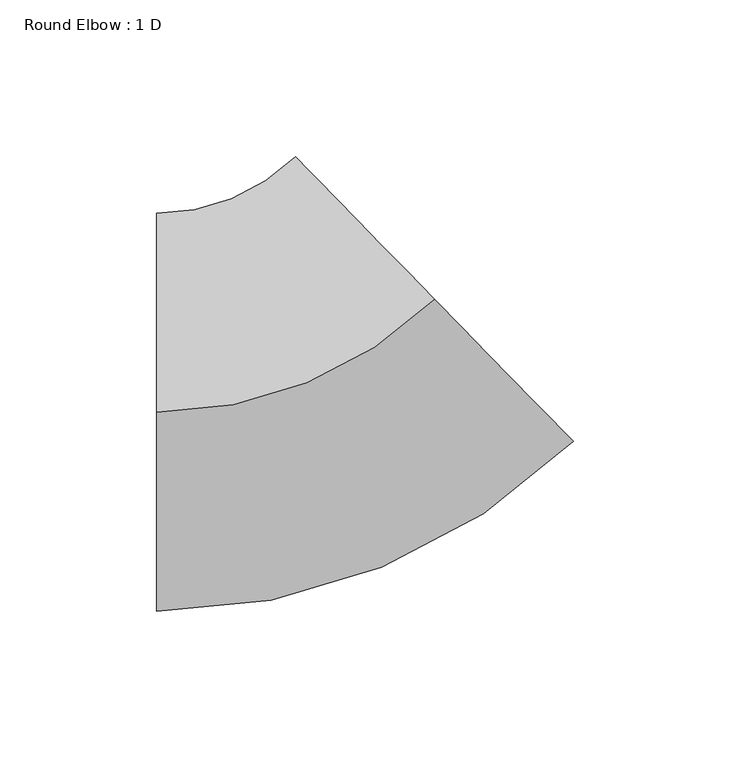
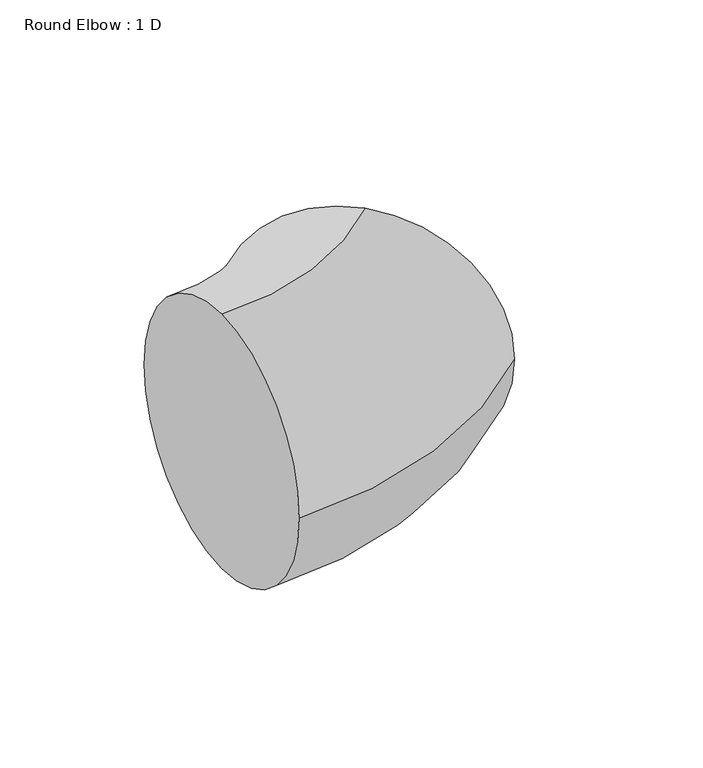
"""IFC4 building model written with IfcOpenShell, lengths in millimetres: duct fitting geometry, Round Elbow : 1 D."""

from ifc_helpers import new_model, si_unit, point, frame, origin, place, context, project, spatial, circle_curve, ellipse_curve, trimmed, source, transform, mapped, element, save
from ifc_brep_helpers import plane_surface, revolved_surface, advanced_brep


def round_elbow_1_d_af7a7a65(model_context):
    return source(origin(), model_context, "Body", "AdvancedBrep", [
        advanced_brep(
        [(-51.7155695, 0.0, 63.5), (-51.7155695, 63.5, 0.0), (-51.7155695, 0.0, -63.5), (-51.7155695, -63.5, 0.0), (37.0041279, 36.1274778, 63.5), (81.3639766, -9.3087834, 0.0), (37.0041279, 36.1274778, -63.5), (-7.3557208, 81.5637389, 0.0)],
        [
            (0, 1, circle_curve(frame((-51.7155695, 0.0, 0.0), z_axis=(-1.0, 0.0, 0.0), x_axis=(0.0, 1.0, 0.0)), 63.5)),
            (1, 2, circle_curve(frame((-51.7155695, 0.0, 0.0), z_axis=(-1.0, 0.0, 0.0), x_axis=(0.0, 1.0, 0.0)), 63.5)),
            (2, 3, circle_curve(frame((-51.7155695, 0.0, 0.0), z_axis=(-1.0, 0.0, 0.0), x_axis=(0.0, 1.0, 0.0)), 63.5)),
            (3, 0, circle_curve(frame((-51.7155695, 0.0, 0.0), z_axis=(-1.0, 0.0, 0.0), x_axis=(0.0, 1.0, 0.0)), 63.5)),
            (4, 5, circle_curve(frame((37.0041279, 36.1274778, 0.0), z_axis=(0.7155316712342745, 0.698580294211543, 0.0), x_axis=(-0.698580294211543, 0.7155316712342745, 0.0)), 63.5)),
            (5, 6, circle_curve(frame((37.0041279, 36.1274778, 0.0), z_axis=(0.7155316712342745, 0.698580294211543, 0.0), x_axis=(-0.698580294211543, 0.7155316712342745, 0.0)), 63.5)),
            (6, 7, circle_curve(frame((37.0041279, 36.1274778, 0.0), z_axis=(0.7155316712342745, 0.698580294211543, 0.0), x_axis=(-0.698580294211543, 0.7155316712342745, 0.0)), 63.5)),
            (7, 4, circle_curve(frame((37.0041279, 36.1274778, 0.0), z_axis=(0.7155316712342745, 0.698580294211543, 0.0), x_axis=(-0.698580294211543, 0.7155316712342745, 0.0)), 63.5)),
            (7, 1, circle_curve(frame((-51.7155695, 127.0, 0.0), z_axis=(0.0, 0.0, -1.0), x_axis=(0.0, -1.0, 0.0)), 63.5)),
            (0, 4, circle_curve(frame((-51.7155695, 127.0, 63.5), z_axis=(0.0, 0.0, 1.0), x_axis=(0.0, -1.0, 0.0)), 127.0)),
            (6, 2, circle_curve(frame((-51.7155695, 127.0, -63.5), z_axis=(0.0, 0.0, -1.0), x_axis=(0.0, -1.0, 0.0)), 127.0)),
            (5, 3, circle_curve(frame((-51.7155695, 127.0, 0.0), z_axis=(0.0, 0.0, -1.0), x_axis=(0.0, -1.0, 0.0)), 190.5)),
        ],
        [
            plane_surface(frame((-51.7155695, 0.0, 0.0), z_axis=(-1.0, 0.0, 0.0), x_axis=(0.0, 0.0, 1.0))),
            plane_surface(frame((37.0041279, 36.1274778, 0.0), z_axis=(0.7155316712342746, 0.698580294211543, 0.0), x_axis=(0.0, 0.0, 1.0))),
            revolved_surface(trimmed(ellipse_curve(frame((-51.7155695, 0.0, 0.0), z_axis=(-1.0, 0.0, 0.0), x_axis=(0.0, 1.0, 0.0)), 63.5, 63.5), [point((-51.7155695, 0.0, 63.5))], [point((-51.7155695, 63.5, 0.0))], True, "CARTESIAN"), (-51.7155695, 127.0, 0.0), (0.0, 0.0, 1.0)),
            revolved_surface(trimmed(ellipse_curve(frame((-51.7155695, 0.0, 0.0), z_axis=(-1.0, 0.0, 0.0), x_axis=(0.0, 1.0, 0.0)), 63.5, 63.5), [point((-51.7155695, 63.5, 0.0))], [point((-51.7155695, 0.0, -63.5))], True, "CARTESIAN"), (-51.7155695, 127.0, 0.0), (0.0, 0.0, 1.0)),
            revolved_surface(trimmed(ellipse_curve(frame((-51.7155695, 0.0, 0.0), z_axis=(-1.0, 0.0, 0.0), x_axis=(0.0, 1.0, 0.0)), 63.5, 63.5), [point((-51.7155695, 0.0, -63.5))], [point((-51.7155695, -63.5, 0.0))], True, "CARTESIAN"), (-51.7155695, 127.0, 0.0), (0.0, 0.0, 1.0)),
            revolved_surface(trimmed(ellipse_curve(frame((-51.7155695, 0.0, 0.0), z_axis=(-1.0, 0.0, 0.0), x_axis=(0.0, 1.0, 0.0)), 63.5, 63.5), [point((-51.7155695, -63.5, 0.0))], [point((-51.7155695, 0.0, 63.5))], True, "CARTESIAN"), (-51.7155695, 127.0, 0.0), (0.0, 0.0, 1.0)),
        ],
        [
            (0, [[1, 2, 3, 4]]),
            (1, [[5, 6, 7, 8]]),
            (2, [[9, -1, 10, -8]]),
            (3, [[11, -2, -9, -7]]),
            (4, [[12, -3, -11, -6]]),
            (5, [[-10, -4, -12, -5]]),
        ],
    ),
    ])


if __name__ == "__main__":
    model = new_model("IFC4")
    model_context = context("Model", 3, world=origin())
    ifc_project = project(units=[si_unit("LENGTHUNIT", "METRE", prefix="MILLI")], contexts=[model_context])
    site = spatial("IfcSite", under=ifc_project)
    building = spatial("IfcBuilding", under=site)
    placement = place(None, origin())
    round_elbow_1_d_shape = round_elbow_1_d_af7a7a65(model_context)
    element("IfcDuctFitting", 1, ObjectType="Round Elbow : 1 D", at=placement, inside=building, context=model_context, shape_type="MappedRepresentation", body=[
        mapped(round_elbow_1_d_shape, transform((0.0, 0.0, 0.0), x_axis=(1.0, 0.0, 0.0), y_axis=(0.0, 1.0, 0.0), z_axis=(0.0, 0.0, 1.0))),
    ])
    save(model, "model.ifc")
